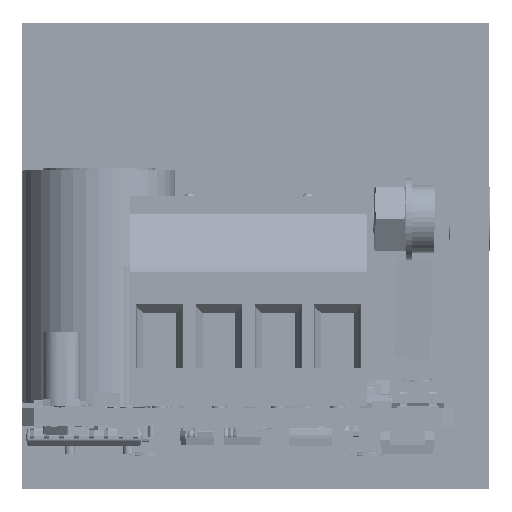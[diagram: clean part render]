
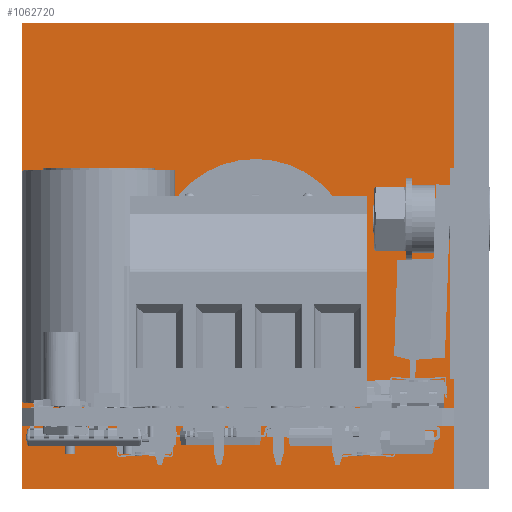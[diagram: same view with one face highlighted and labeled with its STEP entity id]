
A CAD part, front view. The second image highlights one B-rep face of the part: STEP entity #1062720.
In plain terms, the highlighted planar face has unit normal (0, -1, 0).
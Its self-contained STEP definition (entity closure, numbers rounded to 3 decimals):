
#1062695 = VERTEX_POINT('',#1062696);
#1062696 = CARTESIAN_POINT('',(37.,37.,33.));
#1062702 = EDGE_CURVE('',#1062703,#1062695,#1062705,.T.);
#1062703 = VERTEX_POINT('',#1062704);
#1062704 = CARTESIAN_POINT('',(37.,37.,-7.));
#1062705 = LINE('',#1062706,#1062707);
#1062706 = CARTESIAN_POINT('',(37.,37.,-7.));
#1062707 = VECTOR('',#1062708,1.);
#1062708 = DIRECTION('',(0.,0.,1.));
#1062720 = ADVANCED_FACE('',(#1062721),#1062746,.T.);
#1062721 = FACE_BOUND('',#1062722,.T.);
#1062722 = EDGE_LOOP('',(#1062723,#1062724,#1062732,#1062740));
#1062723 = ORIENTED_EDGE('',*,*,#1062702,.T.);
#1062724 = ORIENTED_EDGE('',*,*,#1062725,.T.);
#1062725 = EDGE_CURVE('',#1062695,#1062726,#1062728,.T.);
#1062726 = VERTEX_POINT('',#1062727);
#1062727 = CARTESIAN_POINT('',(0.,37.,
    33.));
#1062728 = LINE('',#1062729,#1062730);
#1062729 = CARTESIAN_POINT('',(37.,37.,33.));
#1062730 = VECTOR('',#1062731,1.);
#1062731 = DIRECTION('',(-1.,0.,0.));
#1062732 = ORIENTED_EDGE('',*,*,#1062733,.F.);
#1062733 = EDGE_CURVE('',#1062734,#1062726,#1062736,.T.);
#1062734 = VERTEX_POINT('',#1062735);
#1062735 = CARTESIAN_POINT('',(0.,37.,
    -7.));
#1062736 = LINE('',#1062737,#1062738);
#1062737 = CARTESIAN_POINT('',(0.,37.,
    -7.));
#1062738 = VECTOR('',#1062739,1.);
#1062739 = DIRECTION('',(0.,0.,1.));
#1062740 = ORIENTED_EDGE('',*,*,#1062741,.F.);
#1062741 = EDGE_CURVE('',#1062703,#1062734,#1062742,.T.);
#1062742 = LINE('',#1062743,#1062744);
#1062743 = CARTESIAN_POINT('',(37.,37.,-7.));
#1062744 = VECTOR('',#1062745,1.);
#1062745 = DIRECTION('',(-1.,0.,0.));
#1062746 = PLANE('',#1062747);
#1062747 = AXIS2_PLACEMENT_3D('',#1062748,#1062749,#1062750);
#1062748 = CARTESIAN_POINT('',(37.,37.,-7.));
#1062749 = DIRECTION('',(0.,-1.,0.));
#1062750 = DIRECTION('',(-1.,0.,0.));
